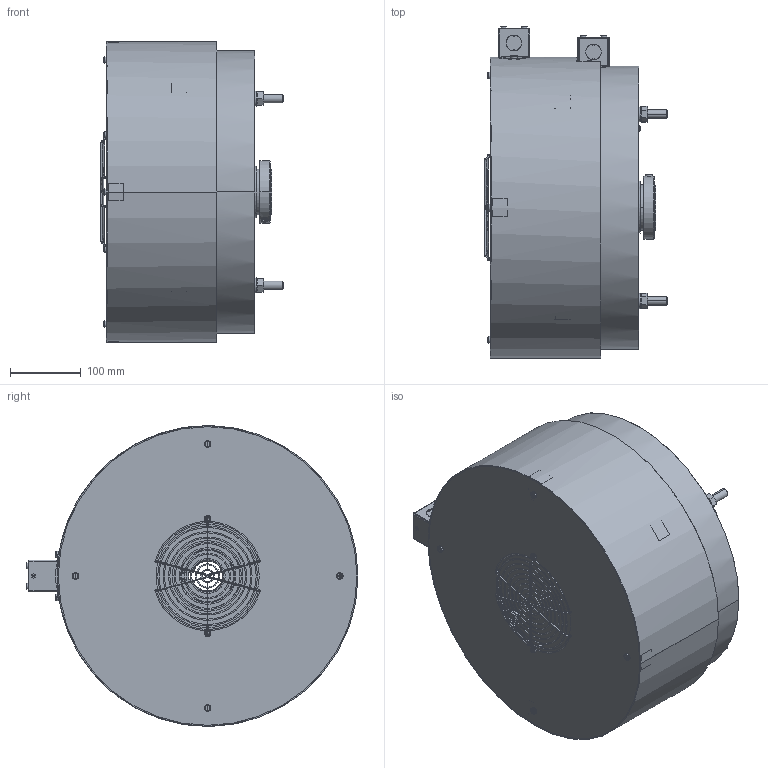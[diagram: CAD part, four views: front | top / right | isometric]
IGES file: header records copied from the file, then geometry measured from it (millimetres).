
Global section: file name: No Iges File Name specified; native system: Autodesk Inventor 2010; preprocessor: AutoDesk Inventor Iges Exporter R2010; author: lzuniga; date: 20101202.142636; units: inch
Bounding box: 258.46 x 469.67 x 425.45 mm (x, y, z)
Volume: 15301343.9 mm3; surface area: 1271603.6 mm2
Topology: 57 solids, 58 shells, 1162 faces, 2843 edges, 1808 vertices
Faces by surface type: plane 560, bspline 200, cylinder 176, revolution 87, torus 82, cone 52, sphere 5
